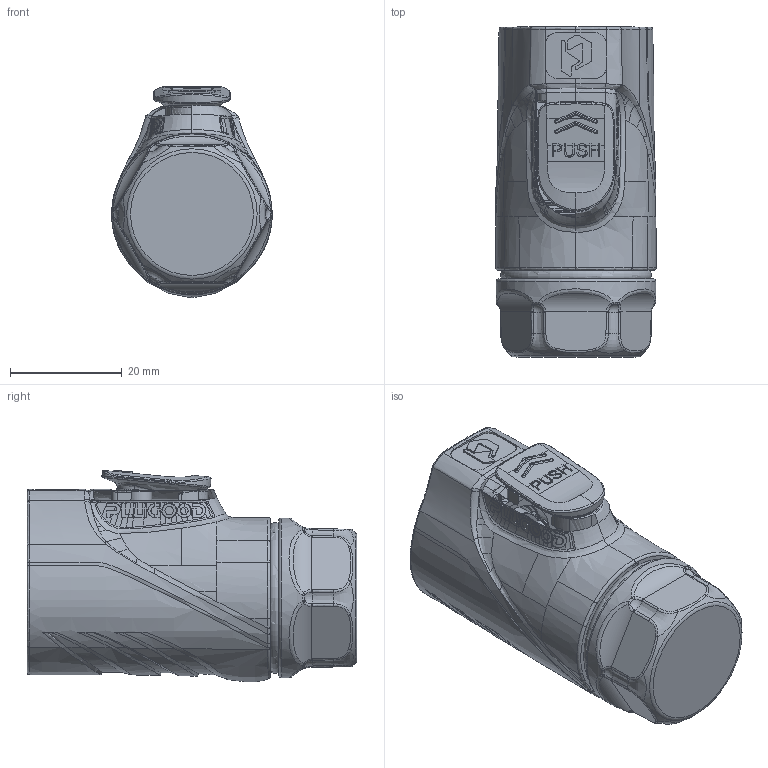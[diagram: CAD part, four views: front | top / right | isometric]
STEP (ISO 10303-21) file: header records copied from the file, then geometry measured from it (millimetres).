
FILE_DESCRIPTION (( 'STEP AP203' ), '1' );
FILE_NAME ('PLG20 4Ð¾²åÍ·.STEP', '2025-03-20T01:17:10', ( '' ), ( '' ), 'SwSTEP 2.0', 'SolidWorks 2024', '' );
FILE_SCHEMA (( 'CONFIG_CONTROL_DESIGN' ));
Products named in the file (1): PLG20 4芯插头
Bounding box: 28.77 x 59.1 x 37.93 mm (x, y, z)
Topology: 2 solids, 7 shells, 1223 faces, 3254 edges, 2063 vertices
Faces by surface type: bspline 648, plane 289, cylinder 161, torus 76, cone 39, sphere 10
Full cylindrical faces by diameter (mm): 1.5 x1, 1.519 x1, 1.6 x1, 2.5 x1, 2.6 x4, 2.65 x1, 2.75 x4, 4.5 x1, 16.2 x1, 17.5 x1, 17.6 x1, 19.2 x2, 19.3 x2, 19.4 x2, 23.005 x8, 28.6 x1
Entity records: 88912 total; most frequent: CARTESIAN_POINT 64745, ORIENTED_EDGE 6272, EDGE_CURVE 3136, DIRECTION 2942, VERTEX_POINT 2014, B_SPLINE_CURVE_WITH_KNOTS 1761, EDGE_LOOP 1304, FACE_OUTER_BOUND 1259
